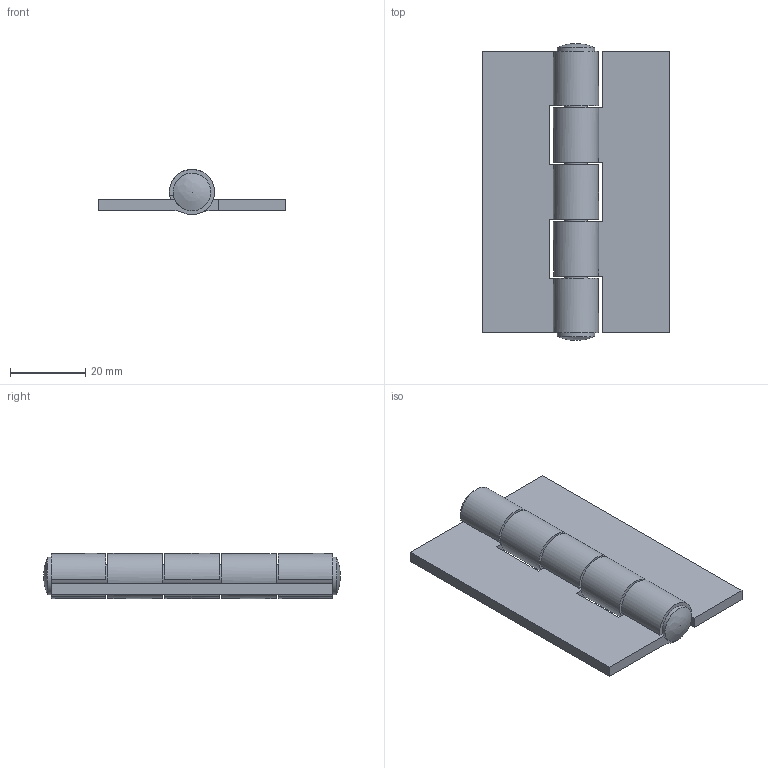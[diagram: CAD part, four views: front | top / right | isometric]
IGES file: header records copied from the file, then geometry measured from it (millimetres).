
Global section: file name: DR_HTN7550-30; native system: Autodesk Inventor 2015; preprocessor: unknown; author: Administrator; date: 20170822.165144; units: millimetre
Bounding box: 50 x 79 x 11.99 mm (x, y, z)
Volume: 16815.2 mm3; surface area: 13364 mm2
Topology: 3 solids, 3 shells, 55 faces, 153 edges, 104 vertices
Faces by surface type: bspline 55
